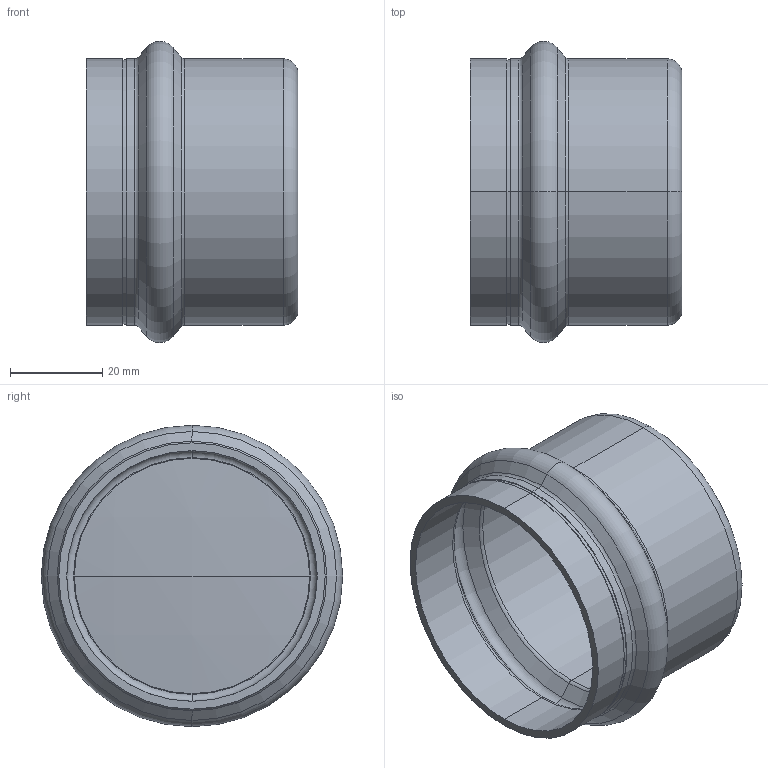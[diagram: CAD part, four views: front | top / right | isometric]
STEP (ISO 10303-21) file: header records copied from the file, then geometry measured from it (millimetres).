
FILE_DESCRIPTION (( 'STEP AP203' ), '1' );
FILE_NAME ('SP5301 54.STEP', '2017-04-24T09:29:10', ( '' ), ( '' ), 'SwSTEP 2.0', 'SolidWorks 2016', '' );
FILE_SCHEMA (( 'CONFIG_CONTROL_DESIGN' ));
Length unit declared in the file: millimetre
Products named in the file (1): SP5301 54
Bounding box: 46 x 65.4 x 65.4 mm (x, y, z)
Volume: 18663.3 mm3; surface area: 22295.8 mm2
Topology: 1 solids, 1 shells, 50 faces, 102 edges, 58 vertices
Faces by surface type: torus 20, cylinder 14, cone 8, sphere 4, plane 4
Entity records: 1403 total; most frequent: DIRECTION 284, CARTESIAN_POINT 211, ORIENTED_EDGE 204, AXIS2_PLACEMENT_3D 131, EDGE_CURVE 102, CIRCLE 80, VERTEX_POINT 58, EDGE_LOOP 54
